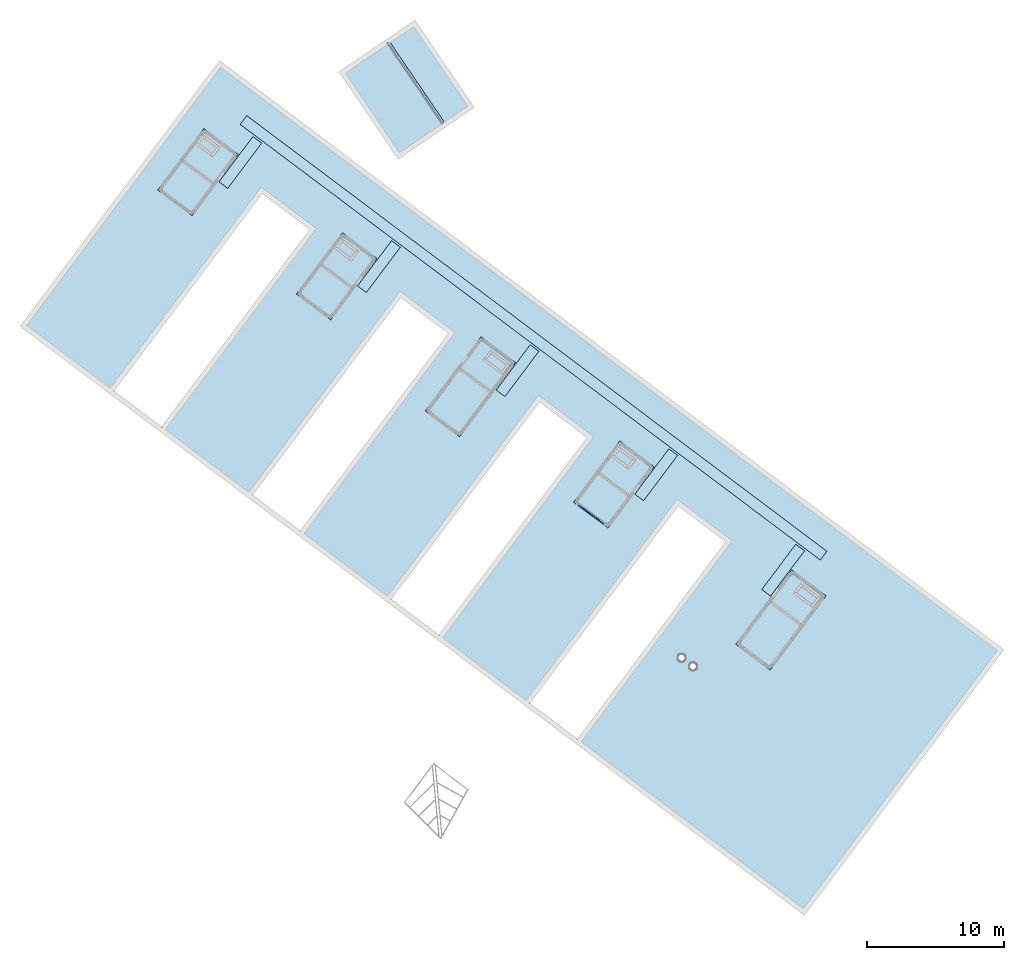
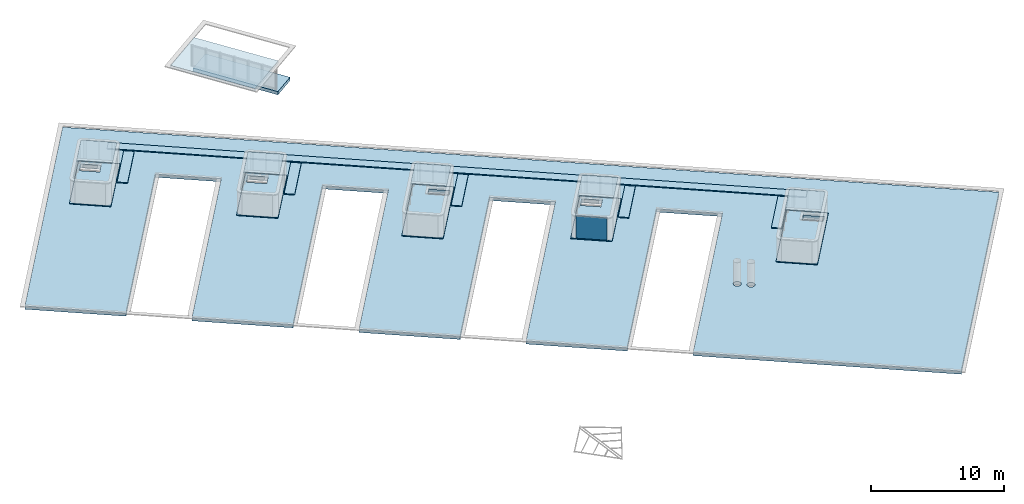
# One storey, part 19 of 28: 19 slabs, 1 wall, 12 openings, 13 elements without a shape of their own.
"""IFC2X3 building model written with IfcOpenShell, lengths in metres."""

from ifc_helpers import new_model, entity, si_unit, converted_unit, derived_unit, direction, frame, frame_2d, origin, origin_2d_with_axis, place, context, subcontext, project, spatial, polyline, rectangle, circle, outline, extrude, material, layer, layer_set, layer_usage, type_object, element, aggregate, save


model = new_model("IFC2X3")

# Units and contexts
model_context = context("Model", 3, precision=1e-05, world=origin(), true_north=direction((6.123031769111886e-17, 1.0)))
body_context = subcontext(model_context, "Body", "Model", "MODEL_VIEW")
ifc_project = project(units=[si_unit("LENGTHUNIT", "METRE"), si_unit("AREAUNIT", "SQUARE_METRE"), si_unit("VOLUMEUNIT", "CUBIC_METRE"), converted_unit("PLANEANGLEUNIT", "DEGREE", entity("IfcRatioMeasure", 0.017453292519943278), si_unit("PLANEANGLEUNIT", "RADIAN"), dimensions=[0, 0, 0, 0, 0, 0, 0]), si_unit("MASSUNIT", "GRAM", prefix="KILO"), derived_unit("MASSDENSITYUNIT", [(si_unit("MASSUNIT", "GRAM", prefix="KILO"), 1), (si_unit("LENGTHUNIT", "METRE"), -3)]), derived_unit("IONCONCENTRATIONUNIT", [(si_unit("MASSUNIT", "GRAM", prefix="KILO"), 1), (si_unit("LENGTHUNIT", "METRE"), -3)]), derived_unit("MOMENTOFINERTIAUNIT", [(si_unit("LENGTHUNIT", "METRE"), 4)]), si_unit("TIMEUNIT", "SECOND"), si_unit("FREQUENCYUNIT", "HERTZ"), si_unit("THERMODYNAMICTEMPERATUREUNIT", "DEGREE_CELSIUS"), derived_unit("THERMALTRANSMITTANCEUNIT", [(si_unit("MASSUNIT", "GRAM", prefix="KILO"), 1), (si_unit("THERMODYNAMICTEMPERATUREUNIT", "KELVIN"), -1), (si_unit("TIMEUNIT", "SECOND"), -3)]), derived_unit("THERMALCONDUCTANCEUNIT", [(si_unit("MASSUNIT", "GRAM", prefix="KILO"), 1), (si_unit("THERMODYNAMICTEMPERATUREUNIT", "KELVIN"), -1), (si_unit("TIMEUNIT", "SECOND"), -3), (si_unit("LENGTHUNIT", "METRE"), 1)]), derived_unit("VOLUMETRICFLOWRATEUNIT", [(si_unit("LENGTHUNIT", "METRE"), 3), (si_unit("TIMEUNIT", "SECOND"), -1)]), derived_unit("MASSFLOWRATEUNIT", [(si_unit("MASSUNIT", "GRAM", prefix="KILO"), 1), (si_unit("TIMEUNIT", "SECOND"), -1)]), derived_unit("ROTATIONALFREQUENCYUNIT", [(si_unit("TIMEUNIT", "SECOND"), -1)]), si_unit("ELECTRICCURRENTUNIT", "AMPERE"), si_unit("ELECTRICVOLTAGEUNIT", "VOLT"), si_unit("POWERUNIT", "WATT"), si_unit("FORCEUNIT", "NEWTON", prefix="KILO"), si_unit("ILLUMINANCEUNIT", "LUX"), si_unit("LUMINOUSFLUXUNIT", "LUMEN"), si_unit("LUMINOUSINTENSITYUNIT", "CANDELA"), derived_unit("USERDEFINED", [(si_unit("MASSUNIT", "GRAM", prefix="KILO"), -1), (si_unit("LENGTHUNIT", "METRE"), -2), (si_unit("TIMEUNIT", "SECOND"), 3), (si_unit("LUMINOUSFLUXUNIT", "LUMEN"), 1)]), derived_unit("USERDEFINED", [(si_unit("MASSUNIT", "GRAM", prefix="KILO"), 1), (si_unit("TIMEUNIT", "SECOND"), -3), (si_unit("LENGTHUNIT", "METRE"), 3), (si_unit("ELECTRICCURRENTUNIT", "AMPERE"), -2)]), derived_unit("SOUNDPOWERUNIT", [(si_unit("MASSUNIT", "GRAM", prefix="KILO"), 1), (si_unit("TIMEUNIT", "SECOND"), -3), (si_unit("LENGTHUNIT", "METRE"), 2)]), derived_unit("SOUNDPRESSUREUNIT", [(si_unit("MASSUNIT", "GRAM", prefix="KILO"), 1), (si_unit("LENGTHUNIT", "METRE"), -1), (si_unit("TIMEUNIT", "SECOND"), -2)]), derived_unit("LINEARVELOCITYUNIT", [(si_unit("LENGTHUNIT", "METRE"), 1), (si_unit("TIMEUNIT", "SECOND"), -1)]), si_unit("PRESSUREUNIT", "PASCAL"), derived_unit("USERDEFINED", [(si_unit("MASSUNIT", "GRAM", prefix="KILO"), 1), (si_unit("LENGTHUNIT", "METRE"), -2), (si_unit("TIMEUNIT", "SECOND"), -2)]), derived_unit("LINEARFORCEUNIT", [(si_unit("MASSUNIT", "GRAM", prefix="KILO"), 1), (si_unit("TIMEUNIT", "SECOND"), -2)]), derived_unit("PLANARFORCEUNIT", [(si_unit("MASSUNIT", "GRAM", prefix="KILO"), 1), (si_unit("LENGTHUNIT", "METRE"), -1), (si_unit("TIMEUNIT", "SECOND"), -2)]), derived_unit("SPECIFICHEATCAPACITYUNIT", [(si_unit("THERMODYNAMICTEMPERATUREUNIT", "KELVIN"), -1), (si_unit("LENGTHUNIT", "METRE"), 2), (si_unit("TIMEUNIT", "SECOND"), -2)]), derived_unit("HEATINGVALUEUNIT", [(si_unit("LENGTHUNIT", "METRE"), 2), (si_unit("TIMEUNIT", "SECOND"), -2)]), derived_unit("VAPORPERMEABILITYUNIT", [(si_unit("LENGTHUNIT", "METRE"), -1), (si_unit("TIMEUNIT", "SECOND"), 1)]), derived_unit("DYNAMICVISCOSITYUNIT", [(si_unit("MASSUNIT", "GRAM", prefix="KILO"), 1), (si_unit("TIMEUNIT", "SECOND"), -1), (si_unit("LENGTHUNIT", "METRE"), -1)]), derived_unit("THERMALEXPANSIONCOEFFICIENTUNIT", [(si_unit("THERMODYNAMICTEMPERATUREUNIT", "KELVIN"), -1)]), derived_unit("MODULUSOFELASTICITYUNIT", [(si_unit("MASSUNIT", "GRAM", prefix="KILO"), 1), (si_unit("LENGTHUNIT", "METRE"), -1), (si_unit("TIMEUNIT", "SECOND"), -2)]), derived_unit("ISOTHERMALMOISTURECAPACITYUNIT", [(si_unit("LENGTHUNIT", "METRE"), 3), (si_unit("MASSUNIT", "GRAM", prefix="KILO"), -1)]), derived_unit("MOISTUREDIFFUSIVITYUNIT", [(si_unit("TIMEUNIT", "SECOND"), -1), (si_unit("LENGTHUNIT", "METRE"), 2)])], contexts=[model_context])

# Site, building, storey
site_placement = place(None, frame((0.0, 0.0, 235.0), z_axis=(0.0, 0.0, 1.0), x_axis=(-0.7996477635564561, 0.6004693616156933, 0.0)))
site = spatial("IfcSite", under=ifc_project, at=site_placement, Name="Default", CompositionType="ELEMENT")
building_placement = place(site_placement, origin())
building = spatial("IfcBuilding", under=site, at=building_placement, CompositionType="ELEMENT")
storey_placement = place(building_placement, frame((0.0, 0.0, 3.400000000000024)))
storey = spatial("IfcBuildingStorey", under=building, at=storey_placement, Name="PC- Coberta STR", CompositionType="ELEMENT", Elevation=3.400000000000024)

# Roof, slab, openings
ifc_material_1 = material(Name="_COB- Grava")
ifc_layer_1 = layer(ifc_material_1, 0.08)
ifc_material_2 = material(Name="_COB - Geotextil")
ifc_layer_2 = layer(ifc_material_2, 0.01)
ifc_material_3 = material(Name="_Aillament")
ifc_layer_3 = layer(ifc_material_3, 0.08)
ifc_material_4 = material(Name="_COB- Doble làmina asfàltica")
ifc_layer_4 = layer(ifc_material_4, 0.01)
ifc_material_5 = material(Name="_COB- Formigó Cel·lular")
ifc_layer_5 = layer(ifc_material_5, 0.12)
ifc_layer_set_1 = layer_set([ifc_layer_1, ifc_layer_2, ifc_layer_3, ifc_layer_4, ifc_layer_5], Name="Cubierta básica:COB- Coberta invertida-  Graves- No transitable")
roof_1_placement = place(storey_placement, frame((3.245147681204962, -42.04019175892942, 0.0)))
roof_1 = element("IfcRoof", 1, at=roof_1_placement, inside=storey, material=ifc_layer_set_1, Name="Cubierta básica:COB- Coberta invertida-  Graves- No transitable", ObjectType="Cubierta básica:COB- Coberta invertida-  Graves- No transitable", ShapeType="NOTDEFINED")
slab_type_1 = type_object("IfcSlabType", Name="Cubierta básica:COB- Coberta invertida-  Graves- No transitable", PredefinedType="ROOF")
slab_1_placement = place(storey_placement, frame((3.245147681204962, -42.04019175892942, 0.0)))
slab_1 = element("IfcSlab", 2, at=slab_1_placement, type_object=slab_type_1, Name="Cubierta básica:COB- Coberta invertida-  Graves- No transitable:1", ObjectType="Cubierta básica:COB- Coberta invertida-  Graves- No transitable", PredefinedType="ROOF", context=body_context, shape_type="SweptSolid", body=[
    extrude(outline(polyline([(20.28000000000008, -9.739999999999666), (40.680000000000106, -9.739999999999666), (40.67999999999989, 13.959999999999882), (-30.520000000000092, 13.959999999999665), (-30.519999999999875, -9.739999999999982), (-22.81999999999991, -9.739999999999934), (-22.82000000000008, 8.684999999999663), (-17.820000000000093, 8.684999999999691), (-17.819999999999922, -9.739999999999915), (-10.119999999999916, -9.73999999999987), (-10.120000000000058, 8.68499999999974), (-5.1200000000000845, 8.684999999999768), (-5.119999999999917, -9.739999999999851), (2.5800000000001, -9.739999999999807), (2.579999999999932, 8.684999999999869), (7.579999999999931, 8.684999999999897), (7.580000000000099, -9.739999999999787), (15.280000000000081, -9.739999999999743), (15.279999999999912, 8.684999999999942), (20.279999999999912, 8.68499999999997), (20.28000000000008, -9.739999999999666)])), frame((40.68000000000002, 13.959999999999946, 0.0), z_axis=(0.0, 0.0, 1.0), x_axis=(-1.0, 0.0, 0.0)), (0.0, 0.0, 1.0), 0.30000000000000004),
])
opening_1_placement = place(storey_placement, frame((3.245147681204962, -42.04019175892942, 0.0)))
element("IfcOpeningElement", 3, at=opening_1_placement, cuts=slab_1, Name="Cubierta básica:COB- Coberta invertida-  Graves- No transitable:1", ObjectType="Opening", context=body_context, shape_type="SweptSolid", body=[
    extrude(circle(Radius=0.303, at=origin_2d_with_axis()), frame((17.128000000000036, 14.341999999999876, 0.0)), (0.0, 0.0, 1.0), 0.30000000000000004),
])
opening_2_placement = place(storey_placement, frame((3.245147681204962, -42.04019175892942, 0.0)))
element("IfcOpeningElement", 4, at=opening_2_placement, cuts=slab_1, Name="Cubierta básica:COB- Coberta invertida-  Graves- No transitable:2", ObjectType="Opening", context=body_context, shape_type="SweptSolid", body=[
    extrude(circle(Radius=0.303, at=origin_2d_with_axis()), frame((18.177143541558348, 14.341999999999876, 0.0)), (0.0, 0.0, 1.0), 0.30000000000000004),
])
opening_3_placement = place(storey_placement, frame((3.245147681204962, -42.04019175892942, 0.0)))
element("IfcOpeningElement", 5, at=opening_3_placement, cuts=slab_1, Name="Cubierta básica:COB- Coberta invertida-  Graves- No transitable:3", ObjectType="Opening", context=body_context, shape_type="SweptSolid", body=[
    extrude(rectangle(XDim=5.626999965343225, YDim=3.150000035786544, at=frame_2d((6.661338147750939e-15, -1.2989609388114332e-14), x_axis=(1.0, 0.0))), frame((29.790037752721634, 7.161500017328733, 0.0), z_axis=(0.0, 0.0, 1.0), x_axis=(0.0, 1.0, 0.0)), (0.0, 0.0, 1.0), 0.30000000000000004),
])
opening_4_placement = place(storey_placement, frame((3.245147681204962, -42.04019175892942, 0.0)))
element("IfcOpeningElement", 6, at=opening_4_placement, cuts=slab_1, Name="Cubierta básica:COB- Coberta invertida-  Graves- No transitable:4", ObjectType="Opening", context=body_context, shape_type="SweptSolid", body=[
    extrude(rectangle(XDim=6.812931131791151, YDim=3.1500000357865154, at=frame_2d((0.0, -1.1879386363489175e-14), x_axis=(1.0, 0.0))), frame((14.039898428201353, 7.75446560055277, 0.0), z_axis=(0.0, 0.0, 1.0), x_axis=(0.0, 1.0, 0.0)), (0.0, 0.0, 1.0), 0.30000000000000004),
])
opening_5_placement = place(storey_placement, frame((3.245147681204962, -42.04019175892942, 0.0)))
element("IfcOpeningElement", 7, at=opening_5_placement, cuts=slab_1, Name="Cubierta básica:COB- Coberta invertida-  Graves- No transitable:5", ObjectType="Opening", context=body_context, shape_type="SweptSolid", body=[
    extrude(rectangle(XDim=3.1500000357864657, YDim=6.812931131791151, at=frame_2d((8.659739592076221e-15, 0.0), x_axis=(1.0, 0.0))), frame((42.48989842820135, 7.75446560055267, 0.0), z_axis=(0.0, 0.0, 1.0), x_axis=(-1.0, 0.0, 0.0)), (0.0, 0.0, 1.0), 0.30000000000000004),
])
opening_6_placement = place(storey_placement, frame((3.245147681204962, -42.04019175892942, 0.0)))
element("IfcOpeningElement", 8, at=opening_6_placement, cuts=slab_1, Name="Cubierta básica:COB- Coberta invertida-  Graves- No transitable:6", ObjectType="Opening", context=body_context, shape_type="SweptSolid", body=[
    extrude(rectangle(XDim=5.626999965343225, YDim=3.150000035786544, at=frame_2d((6.661338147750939e-15, -1.2989609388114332e-14), x_axis=(1.0, 0.0))), frame((55.19003775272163, 7.161500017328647, 0.0), z_axis=(0.0, 0.0, 1.0), x_axis=(0.0, 1.0, 0.0)), (0.0, 0.0, 1.0), 0.30000000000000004),
])
opening_7_placement = place(storey_placement, frame((3.245147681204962, -42.04019175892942, 0.0)))
element("IfcOpeningElement", 9, at=opening_7_placement, cuts=slab_1, Name="Cubierta básica:COB- Coberta invertida-  Graves- No transitable:7", ObjectType="Opening", context=body_context, shape_type="SweptSolid", body=[
    extrude(rectangle(XDim=5.626999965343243, YDim=3.1500000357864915, at=frame_2d((-6.661338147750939e-15, 1.7430501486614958e-14), x_axis=(1.0, 0.0))), frame((67.89003775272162, 7.161500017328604, 0.0), z_axis=(0.0, 0.0, 1.0), x_axis=(0.0, -1.0, 0.0)), (0.0, 0.0, 1.0), 0.30000000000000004),
])
aggregate(roof_1, [slab_1])

# Roof, slab
roof_2_placement = place(storey_placement, frame((58.190915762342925, -52.92210949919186, 0.0)))
roof_2 = element("IfcRoof", 10, at=roof_2_placement, inside=storey, material=ifc_layer_set_1, Name="Cubierta básica:COB- Coberta invertida-  Graves- No transitable", ObjectType="Cubierta básica:COB- Coberta invertida-  Graves- No transitable", ShapeType="NOTDEFINED")
slab_2_placement = place(roof_2_placement, origin())
slab_2 = element("IfcSlab", 11, at=slab_2_placement, type_object=slab_type_1, material=ifc_layer_set_1, Name="Cubierta básica:COB- Coberta invertida-  Graves- No transitable", ObjectType="Cubierta básica:COB- Coberta invertida-  Graves- No transitable", PredefinedType="ROOF", context=body_context, shape_type="SweptSolid", body=[
    extrude(rectangle(XDim=7.100000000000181, YDim=2.100000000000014, at=frame_2d((-8.659739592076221e-15, 0.0), x_axis=(0.9460037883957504, -0.3241555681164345))), frame((3.698676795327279, 2.1440562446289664, 0.0)), (0.0, 0.0, 1.0), 0.30000000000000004),
])
aggregate(roof_2, [slab_2])

ifc_material_6 = material(Name="_REV- Xapa minionda")
ifc_layer_6 = layer(ifc_material_6, 0.01)
ifc_material_7 = material(Name="_Genèric perfils, muntants, rastrells")
ifc_layer_7 = layer(ifc_material_7, 0.01)
ifc_layer_8 = layer(ifc_material_3, 0.08)
ifc_layer_set_2 = layer_set([ifc_layer_6, ifc_layer_7, ifc_layer_8], Name="Cubierta básica:COB- Coberta Xapa")
roof_3_placement = place(storey_placement, frame((15.910046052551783, -37.50926055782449, 2.3549211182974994)))
roof_3 = element("IfcRoof", 12, at=roof_3_placement, inside=storey, material=ifc_layer_set_2, Name="Cubierta básica:COB- Coberta Xapa", ObjectType="Cubierta básica:COB- Coberta Xapa", ShapeType="NOTDEFINED")
slab_type_2 = type_object("IfcSlabType", Name="Cubierta básica:COB- Coberta Xapa", PredefinedType="ROOF")
slab_3_placement = place(roof_3_placement, origin())
slab_3 = element("IfcSlab", 13, at=slab_3_placement, type_object=slab_type_2, material=ifc_layer_set_2, Name="Cubierta básica:COB- Coberta Xapa", ObjectType="Cubierta básica:COB- Coberta Xapa", PredefinedType="ROOF", context=body_context, shape_type="SweptSolid", body=[
    extrude(rectangle(XDim=2.71199997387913, YDim=2.750000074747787, at=frame_2d((0.0, 2.220446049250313e-15), x_axis=(0.0, -1.0))), frame((1.3750000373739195, 1.3559999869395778, 0.0)), (0.0, 0.0, 1.0), 0.1),
])
aggregate(roof_3, [slab_3])

roof_4_placement = place(storey_placement, frame((31.66018537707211, -37.495191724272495, 2.35)))
roof_4 = element("IfcRoof", 14, at=roof_4_placement, inside=storey, material=ifc_layer_set_2, Name="Cubierta básica:COB- Coberta Xapa", ObjectType="Cubierta básica:COB- Coberta Xapa", ShapeType="NOTDEFINED")
slab_4_placement = place(roof_4_placement, origin())
slab_4 = element("IfcSlab", 15, at=slab_4_placement, type_object=slab_type_2, material=ifc_layer_set_2, Name="Cubierta básica:COB- Coberta Xapa", ObjectType="Cubierta básica:COB- Coberta Xapa", PredefinedType="ROOF", context=body_context, shape_type="SweptSolid", body=[
    extrude(rectangle(XDim=2.711999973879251, YDim=2.7500000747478, at=frame_2d((2.220446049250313e-15, 2.1094237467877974e-15), x_axis=(0.0, 1.0))), frame((1.375000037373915, 1.3559999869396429, 0.0)), (0.0, 0.0, 1.0), 0.1),
])
aggregate(roof_4, [slab_4])

roof_5_placement = place(storey_placement, frame((57.06018537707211, -37.49519172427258, 2.35)))
roof_5 = element("IfcRoof", 16, at=roof_5_placement, inside=storey, material=ifc_layer_set_2, Name="Cubierta básica:COB- Coberta Xapa", ObjectType="Cubierta básica:COB- Coberta Xapa", ShapeType="NOTDEFINED")
slab_5_placement = place(roof_5_placement, origin())
slab_5 = element("IfcSlab", 17, at=slab_5_placement, type_object=slab_type_2, material=ifc_layer_set_2, Name="Cubierta básica:COB- Coberta Xapa", ObjectType="Cubierta básica:COB- Coberta Xapa", PredefinedType="ROOF", context=body_context, shape_type="SweptSolid", body=[
    extrude(rectangle(XDim=2.711999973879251, YDim=2.7500000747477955, at=frame_2d((0.0, 2.1094237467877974e-15), x_axis=(0.0, 1.0))), frame((1.3750000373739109, 1.3559999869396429, 0.0)), (0.0, 0.0, 1.0), 0.1),
])
aggregate(roof_5, [slab_5])

roof_6_placement = place(storey_placement, frame((69.7601853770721, -37.49519172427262, 2.35)))
roof_6 = element("IfcRoof", 18, at=roof_6_placement, inside=storey, material=ifc_layer_set_2, Name="Cubierta básica:COB- Coberta Xapa", ObjectType="Cubierta básica:COB- Coberta Xapa", ShapeType="NOTDEFINED")
slab_6_placement = place(roof_6_placement, origin())
slab_6 = element("IfcSlab", 19, at=slab_6_placement, type_object=slab_type_2, material=ifc_layer_set_2, Name="Cubierta básica:COB- Coberta Xapa", ObjectType="Cubierta básica:COB- Coberta Xapa", PredefinedType="ROOF", context=body_context, shape_type="SweptSolid", body=[
    extrude(rectangle(XDim=2.711999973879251, YDim=2.7500000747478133, at=frame_2d((0.0, 2.1094237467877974e-15), x_axis=(0.0, 1.0))), frame((1.3750000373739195, 1.3559999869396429, 0.0)), (0.0, 0.0, 1.0), 0.1),
])
aggregate(roof_6, [slab_6])

# Slabs
ifc_material_8 = material(Name="_Formigó- T1- STR")
ifc_layer_9 = layer(ifc_material_8, 0.05)
ifc_layer_10 = layer(ifc_material_3, 0.03)
ifc_layer_set_3 = layer_set([ifc_layer_9, ifc_layer_10], Name="Suelo:PAV- llosa formigó exterior")
ifc_layer_usage_1 = layer_usage(ifc_layer_set_3, "AXIS3", "POSITIVE", 0.0)
slab_type_3 = type_object("IfcSlabType", Name="Suelo:PAV- llosa formigó exterior", PredefinedType="FLOOR", material=ifc_layer_set_3)
slab_7_placement = place(storey_placement, frame((17.619046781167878, -40.33428522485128, 0.31999999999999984)))
element("IfcSlab", 20, at=slab_7_placement, inside=storey, type_object=slab_type_3, material=ifc_layer_usage_1, Name="Suelo:PAV- llosa formigó exterior", ObjectType="Suelo:PAV- llosa formigó exterior", PredefinedType="FLOOR", context=body_context, shape_type="SweptSolid", body=[
    extrude(outline(polyline([(-26.571487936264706, -1.7500389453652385), (-26.571487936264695, -2.550038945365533), (26.571487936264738, -2.550038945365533), (26.571487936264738, -1.7499958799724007), (-26.571487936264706, -1.7500389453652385)])), frame((26.571487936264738, 2.550038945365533, 0.07999999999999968), z_axis=(0.0, 0.0, -1.0), x_axis=(-1.0, 0.0, 0.0)), (0.0, 0.0, 1.0), 0.08000000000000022),
])
slab_8_placement = place(storey_placement, frame((17.619046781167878, -40.33428522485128, 0.31999999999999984)))
element("IfcSlab", 21, at=slab_8_placement, inside=storey, type_object=slab_type_3, material=ifc_layer_usage_1, Name="Suelo:PAV- llosa formigó exterior:2", ObjectType="Suelo:PAV- llosa formigó exterior", PredefinedType="FLOOR", context=body_context, shape_type="SweptSolid", body=[
    extrude(rectangle(XDim=4.145984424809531, YDim=0.799996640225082, at=frame_2d((-24.887531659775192, 0.47704673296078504), x_axis=(0.0, 1.0))), frame((26.571487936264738, 2.550038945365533, 0.07999999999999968), z_axis=(0.0, 0.0, -1.0), x_axis=(-1.0, 0.0, 0.0)), (0.0, 0.0, 1.0), 0.08000000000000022),
])
slab_9_placement = place(storey_placement, frame((17.619046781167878, -40.33428522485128, 0.31999999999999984)))
element("IfcSlab", 22, at=slab_9_placement, inside=storey, type_object=slab_type_3, material=ifc_layer_usage_1, Name="Suelo:PAV- llosa formigó exterior:3", ObjectType="Suelo:PAV- llosa formigó exterior", PredefinedType="FLOOR", context=body_context, shape_type="SweptSolid", body=[
    extrude(rectangle(XDim=4.145984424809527, YDim=0.7999966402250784, at=frame_2d((-12.187531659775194, 0.4770467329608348), x_axis=(0.0, 1.0))), frame((26.571487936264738, 2.550038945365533, 0.07999999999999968), z_axis=(0.0, 0.0, -1.0), x_axis=(-1.0, 0.0, 0.0)), (0.0, 0.0, 1.0), 0.08000000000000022),
])
slab_10_placement = place(storey_placement, frame((17.619046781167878, -40.33428522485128, 0.31999999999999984)))
element("IfcSlab", 23, at=slab_10_placement, inside=storey, type_object=slab_type_3, material=ifc_layer_usage_1, Name="Suelo:PAV- llosa formigó exterior:4", ObjectType="Suelo:PAV- llosa formigó exterior", PredefinedType="FLOOR", context=body_context, shape_type="SweptSolid", body=[
    extrude(rectangle(XDim=4.145984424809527, YDim=0.7999966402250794, at=frame_2d((0.5124683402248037, 0.4770467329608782), x_axis=(0.0, 1.0))), frame((26.571487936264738, 2.550038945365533, 0.07999999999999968), z_axis=(0.0, 0.0, -1.0), x_axis=(-1.0, 0.0, 0.0)), (0.0, 0.0, 1.0), 0.08000000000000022),
])
slab_11_placement = place(storey_placement, frame((17.619046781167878, -40.33428522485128, 0.31999999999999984)))
element("IfcSlab", 24, at=slab_11_placement, inside=storey, type_object=slab_type_3, material=ifc_layer_usage_1, Name="Suelo:PAV- llosa formigó exterior:5", ObjectType="Suelo:PAV- llosa formigó exterior", PredefinedType="FLOOR", context=body_context, shape_type="SweptSolid", body=[
    extrude(rectangle(XDim=4.145984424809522, YDim=0.7999966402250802, at=frame_2d((13.212468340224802, 0.47704673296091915), x_axis=(0.0, 1.0))), frame((26.571487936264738, 2.550038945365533, 0.07999999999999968), z_axis=(0.0, 0.0, -1.0), x_axis=(-1.0, 0.0, 0.0)), (0.0, 0.0, 1.0), 0.08000000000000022),
])
slab_12_placement = place(storey_placement, frame((17.619046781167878, -40.33428522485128, 0.31999999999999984)))
element("IfcSlab", 25, at=slab_12_placement, inside=storey, type_object=slab_type_3, material=ifc_layer_usage_1, Name="Suelo:PAV- llosa formigó exterior:6", ObjectType="Suelo:PAV- llosa formigó exterior", PredefinedType="FLOOR", context=body_context, shape_type="SweptSolid", body=[
    extrude(rectangle(XDim=4.145984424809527, YDim=0.7999966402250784, at=frame_2d((24.84836955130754, 0.477046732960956), x_axis=(0.0, 1.0))), frame((26.571487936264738, 2.550038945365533, 0.07999999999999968), z_axis=(0.0, 0.0, -1.0), x_axis=(-1.0, 0.0, 0.0)), (0.0, 0.0, 1.0), 0.08000000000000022),
])

# Roof, slab, opening
ifc_material_9 = material(Name="_COB- Formigó antilliscant- T1 ext")
ifc_layer_11 = layer(ifc_material_9, 0.14999999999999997)
ifc_layer_12 = layer(ifc_material_2, 0.01)
ifc_layer_13 = layer(ifc_material_3, 0.08)
ifc_layer_14 = layer(ifc_material_4, 0.01)
ifc_layer_15 = layer(ifc_material_5, 0.12)
ifc_layer_set_4 = layer_set([ifc_layer_11, ifc_layer_12, ifc_layer_13, ifc_layer_14, ifc_layer_15], Name="Cubierta básica:COB- Coberta invertida-  Formigó- Installacions")
roof_7_placement = place(storey_placement, frame((31.460185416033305, -37.6921917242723, 0.0)))
roof_7 = element("IfcRoof", 26, at=roof_7_placement, inside=storey, material=ifc_layer_set_4, Name="Cubierta básica:COB- Coberta invertida-  Formigó- Installacions", ObjectType="Cubierta básica:COB- Coberta invertida-  Formigó- Installacions", ShapeType="NOTDEFINED")
slab_type_4 = type_object("IfcSlabType", Name="Cubierta básica:COB- Coberta invertida-  Formigó- Installacions", PredefinedType="ROOF")
slab_13_placement = place(storey_placement, frame((31.460185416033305, -37.6921917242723, 0.0)))
slab_13 = element("IfcSlab", 27, at=slab_13_placement, type_object=slab_type_4, Name="Cubierta básica:COB- Coberta invertida-  Formigó- Installacions:1", ObjectType="Cubierta básica:COB- Coberta invertida-  Formigó- Installacions", PredefinedType="ROOF", context=body_context, shape_type="SweptSolid", body=[
    extrude(rectangle(XDim=5.626999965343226, YDim=3.1500000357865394, at=frame_2d((6.439293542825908e-15, -1.0769163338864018e-14), x_axis=(1.0, 0.0))), frame((1.5750000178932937, 2.8134999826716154, 0.0), z_axis=(0.0, 0.0, 1.0), x_axis=(0.0, 1.0, 0.0)), (0.0, 0.0, 1.0), 0.36999999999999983),
])
opening_8_placement = place(storey_placement, frame((31.460185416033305, -37.6921917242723, 0.0)))
element("IfcOpeningElement", 28, at=opening_8_placement, cuts=slab_13, Name="Cubierta básica:COB- Coberta invertida-  Formigó- Installacions:1", ObjectType="Opening", context=body_context, shape_type="SweptSolid", body=[
    extrude(rectangle(XDim=1.560000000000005, YDim=0.8800000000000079, at=frame_2d((-2.1649348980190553e-15, -6.494804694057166e-15), x_axis=(1.0, 0.0))), frame((2.1599622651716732, 0.8320017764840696, 0.0), z_axis=(0.0, 0.0, 1.0), x_axis=(-1.0, 0.0, 0.0)), (0.0, 0.0, 1.0), 0.36999999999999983),
])
aggregate(roof_7, [slab_13])

roof_8_placement = place(storey_placement, frame((56.86018541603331, -37.692191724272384, 0.0)))
roof_8 = element("IfcRoof", 29, at=roof_8_placement, inside=storey, material=ifc_layer_set_4, Name="Cubierta básica:COB- Coberta invertida-  Formigó- Installacions", ObjectType="Cubierta básica:COB- Coberta invertida-  Formigó- Installacions", ShapeType="NOTDEFINED")
slab_14_placement = place(storey_placement, frame((56.86018541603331, -37.692191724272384, 0.0)))
slab_14 = element("IfcSlab", 30, at=slab_14_placement, type_object=slab_type_4, Name="Cubierta básica:COB- Coberta invertida-  Formigó- Installacions:1", ObjectType="Cubierta básica:COB- Coberta invertida-  Formigó- Installacions", PredefinedType="ROOF", context=body_context, shape_type="SweptSolid", body=[
    extrude(rectangle(XDim=5.626999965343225, YDim=3.150000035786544, at=frame_2d((6.661338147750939e-15, -1.3100631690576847e-14), x_axis=(1.0, 0.0))), frame((1.575000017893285, 2.8134999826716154, 0.0), z_axis=(0.0, 0.0, 1.0), x_axis=(0.0, 1.0, 0.0)), (0.0, 0.0, 1.0), 0.36999999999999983),
])
opening_9_placement = place(storey_placement, frame((56.86018541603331, -37.692191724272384, 0.0)))
element("IfcOpeningElement", 31, at=opening_9_placement, cuts=slab_14, Name="Cubierta básica:COB- Coberta invertida-  Formigó- Installacions:1", ObjectType="Opening", context=body_context, shape_type="SweptSolid", body=[
    extrude(rectangle(XDim=1.5600000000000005, YDim=0.8800000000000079, at=frame_2d((-4.3298697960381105e-15, -6.494804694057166e-15), x_axis=(1.0, 0.0))), frame((2.159962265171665, 0.8320017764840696, 0.0), z_axis=(0.0, 0.0, 1.0), x_axis=(-1.0, 0.0, 0.0)), (0.0, 0.0, 1.0), 0.36999999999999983),
])
aggregate(roof_8, [slab_14])

roof_9_placement = place(storey_placement, frame((69.56018541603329, -37.692191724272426, 0.0)))
roof_9 = element("IfcRoof", 32, at=roof_9_placement, inside=storey, material=ifc_layer_set_4, Name="Cubierta básica:COB- Coberta invertida-  Formigó- Installacions", ObjectType="Cubierta básica:COB- Coberta invertida-  Formigó- Installacions", ShapeType="NOTDEFINED")
slab_15_placement = place(storey_placement, frame((69.56018541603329, -37.692191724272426, 0.0)))
slab_15 = element("IfcSlab", 33, at=slab_15_placement, type_object=slab_type_4, Name="Cubierta básica:COB- Coberta invertida-  Formigó- Installacions:1", ObjectType="Cubierta básica:COB- Coberta invertida-  Formigó- Installacions", PredefinedType="ROOF", context=body_context, shape_type="SweptSolid", body=[
    extrude(rectangle(XDim=5.626999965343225, YDim=3.150000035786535, at=frame_2d((6.661338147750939e-15, 0.0), x_axis=(1.0, 0.0))), frame((1.5750000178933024, 2.8134999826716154, 0.0), z_axis=(0.0, 0.0, 1.0), x_axis=(0.0, 1.0, 0.0)), (0.0, 0.0, 1.0), 0.36999999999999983),
])
opening_10_placement = place(storey_placement, frame((69.56018541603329, -37.692191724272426, 0.0)))
element("IfcOpeningElement", 34, at=opening_10_placement, cuts=slab_15, Name="Cubierta básica:COB- Coberta invertida-  Formigó- Installacions:1", ObjectType="Opening", context=body_context, shape_type="SweptSolid", body=[
    extrude(rectangle(XDim=1.5600000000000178, YDim=0.8800000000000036, at=frame_2d((-8.659739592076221e-15, 0.0), x_axis=(1.0, 0.0))), frame((2.1599622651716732, 0.8320017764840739, 0.0), z_axis=(0.0, 0.0, 1.0), x_axis=(-1.0, 0.0, 0.0)), (0.0, 0.0, 1.0), 0.36999999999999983),
])
aggregate(roof_9, [slab_15])

roof_10_placement = place(storey_placement, frame((15.710046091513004, -37.69219172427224, 0.0)))
roof_10 = element("IfcRoof", 35, at=roof_10_placement, inside=storey, material=ifc_layer_set_4, Name="Cubierta básica:COB- Coberta invertida-  Formigó- Installacions", ObjectType="Cubierta básica:COB- Coberta invertida-  Formigó- Installacions", ShapeType="NOTDEFINED")
slab_16_placement = place(storey_placement, frame((15.710046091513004, -37.69219172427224, 0.0)))
slab_16 = element("IfcSlab", 36, at=slab_16_placement, type_object=slab_type_4, Name="Cubierta básica:COB- Coberta invertida-  Formigó- Installacions:1", ObjectType="Cubierta básica:COB- Coberta invertida-  Formigó- Installacions", PredefinedType="ROOF", context=body_context, shape_type="SweptSolid", body=[
    extrude(rectangle(XDim=3.1500000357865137, YDim=6.81293113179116, at=frame_2d((-1.1879386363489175e-14, 0.0), x_axis=(1.0, 0.0))), frame((1.575000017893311, 3.4064655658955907, 0.0)), (0.0, 0.0, 1.0), 0.36999999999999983),
])
opening_11_placement = place(storey_placement, frame((15.710046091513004, -37.69219172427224, 0.0)))
element("IfcOpeningElement", 37, at=opening_11_placement, cuts=slab_16, Name="Cubierta básica:COB- Coberta invertida-  Formigó- Installacions:1", ObjectType="Opening", context=body_context, shape_type="SweptSolid", body=[
    extrude(rectangle(XDim=1.6260000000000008, YDim=0.6000000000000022, at=frame_2d((-1.0547118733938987e-15, 0.0), x_axis=(1.0, 0.0))), frame((1.0481015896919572, 0.8320017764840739, 0.0), z_axis=(0.0, 0.0, 1.0), x_axis=(-1.0, 0.0, 0.0)), (0.0, 0.0, 1.0), 0.36999999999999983),
])
aggregate(roof_10, [slab_16])

roof_11_placement = place(storey_placement, frame((44.160046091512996, -37.692191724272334, 0.0)))
roof_11 = element("IfcRoof", 38, at=roof_11_placement, inside=storey, material=ifc_layer_set_4, Name="Cubierta básica:COB- Coberta invertida-  Formigó- Installacions", ObjectType="Cubierta básica:COB- Coberta invertida-  Formigó- Installacions", ShapeType="NOTDEFINED")
slab_17_placement = place(storey_placement, frame((44.160046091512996, -37.692191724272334, 0.0)))
slab_17 = element("IfcSlab", 39, at=slab_17_placement, type_object=slab_type_4, Name="Cubierta básica:COB- Coberta invertida-  Formigó- Installacions:1", ObjectType="Cubierta básica:COB- Coberta invertida-  Formigó- Installacions", PredefinedType="ROOF", context=body_context, shape_type="SweptSolid", body=[
    extrude(rectangle(XDim=3.150000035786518, YDim=6.81293113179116, at=frame_2d((-1.2989609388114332e-14, 0.0), x_axis=(1.0, 0.0))), frame((1.575000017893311, 3.4064655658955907, 0.0)), (0.0, 0.0, 1.0), 0.36999999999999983),
])
opening_12_placement = place(storey_placement, frame((44.160046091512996, -37.692191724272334, 0.0)))
element("IfcOpeningElement", 40, at=opening_12_placement, cuts=slab_17, Name="Cubierta básica:COB- Coberta invertida-  Formigó- Installacions:1", ObjectType="Opening", context=body_context, shape_type="SweptSolid", body=[
    extrude(rectangle(XDim=1.6260000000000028, YDim=0.6000000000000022, at=frame_2d((4.3298697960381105e-15, 0.0), x_axis=(1.0, 0.0))), frame((1.0481015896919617, 0.8320017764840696, 0.0), z_axis=(0.0, 0.0, 1.0), x_axis=(-1.0, 0.0, 0.0)), (0.0, 0.0, 1.0), 0.36999999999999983),
])
aggregate(roof_11, [slab_17])

# Roof, slab
ifc_layer_16 = layer(ifc_material_6, 0.01)
ifc_layer_17 = layer(ifc_material_7, 0.01)
ifc_layer_18 = layer(ifc_material_3, 0.08)
ifc_layer_set_5 = layer_set([ifc_layer_16, ifc_layer_17, ifc_layer_18], Name="Cubierta básica:COB- Coberta Xapa 2")
roof_12_placement = place(storey_placement, frame((44.36004605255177, -37.50926055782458, 2.3549211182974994)))
roof_12 = element("IfcRoof", 41, at=roof_12_placement, inside=storey, material=ifc_layer_set_5, Name="Cubierta básica:COB- Coberta Xapa 2", ObjectType="Cubierta básica:COB- Coberta Xapa 2", ShapeType="NOTDEFINED")
slab_type_5 = type_object("IfcSlabType", Name="Cubierta básica:COB- Coberta Xapa 2", PredefinedType="ROOF")
slab_18_placement = place(roof_12_placement, origin())
slab_18 = element("IfcSlab", 42, at=slab_18_placement, type_object=slab_type_5, material=ifc_layer_set_5, Name="Cubierta básica:COB- Coberta Xapa 2", ObjectType="Cubierta básica:COB- Coberta Xapa 2", PredefinedType="ROOF", context=body_context, shape_type="SweptSolid", body=[
    extrude(rectangle(XDim=2.71199997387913, YDim=2.750000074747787, at=frame_2d((0.0, 2.220446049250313e-15), x_axis=(0.0, -1.0))), frame((1.3750000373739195, 1.3559999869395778, 0.0)), (0.0, 0.0, 1.0), 0.1),
])
aggregate(roof_12, [slab_18])

ifc_layer_19 = layer(ifc_material_9, 0.2)
ifc_layer_20 = layer(ifc_material_2, 0.01)
ifc_layer_21 = layer(ifc_material_4, 0.01)
ifc_layer_set_6 = layer_set([ifc_layer_19, ifc_layer_20, ifc_layer_21], Name="Cubierta básica:COB- Coberta invertida-  Formigó- Biblio")
roof_13_placement = place(storey_placement, frame((58.83922689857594, -51.03010192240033, 2.85)))
roof_13 = element("IfcRoof", 43, at=roof_13_placement, inside=storey, material=ifc_layer_set_6, Name="Cubierta básica:COB- Coberta invertida-  Formigó- Biblio", ObjectType="Cubierta básica:COB- Coberta invertida-  Formigó- Biblio", ShapeType="NOTDEFINED")
slab_type_6 = type_object("IfcSlabType", Name="Cubierta básica:COB- Coberta invertida-  Formigó- Biblio", PredefinedType="ROOF")
slab_19_placement = place(roof_13_placement, origin())
slab_19 = element("IfcSlab", 44, at=slab_19_placement, type_object=slab_type_6, material=ifc_layer_set_6, Name="Cubierta básica:COB- Coberta invertida-  Formigó- Biblio", ObjectType="Cubierta básica:COB- Coberta invertida-  Formigó- Biblio", PredefinedType="ROOF", context=body_context, shape_type="SweptSolid", body=[
    extrude(rectangle(XDim=7.100000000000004, YDim=4.099999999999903, at=frame_2d((-4.440892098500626e-15, 0.0), x_axis=(0.9460037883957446, -0.324155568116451))), frame((4.022832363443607, 3.090060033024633, 0.0)), (0.0, 0.0, 1.0), 0.2199999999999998),
])
aggregate(roof_13, [slab_19])

# Wall
ifc_layer_22 = layer(ifc_material_6, 0.01)
ifc_layer_23 = layer(ifc_material_7, 0.02)
ifc_layer_24 = layer(ifc_material_3, 0.07)
ifc_layer_set_7 = layer_set([ifc_layer_22, ifc_layer_23, ifc_layer_24], Name="Muro básico:REV- Badalot- Xapa + Aillament")
ifc_layer_usage_2 = layer_usage(ifc_layer_set_7, "AXIS2", "NEGATIVE", 0.05)
wall_type = type_object("IfcWallType", Name="Muro básico:REV- Badalot- Xapa + Aillament", PredefinedType="STANDARD", material=ifc_layer_set_7)
wall_placement = place(storey_placement, frame((31.86028711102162, -32.11519175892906, 0.4)))
element("IfcWallStandardCase", 45, at=wall_placement, inside=storey, type_object=wall_type, material=ifc_layer_usage_2, Name="Muro básico:REV- Badalot- Xapa + Aillament", ObjectType="Muro básico:REV- Badalot- Xapa + Aillament", context=body_context, shape_type="SweptSolid", body=[
    extrude(outline(polyline([(2.3497966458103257, -0.0499999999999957), (2.349369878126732, 0.05000000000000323), (0.0004267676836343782, 0.05000000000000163), (0.0, -0.0499999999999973), (2.3497966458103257, -0.0499999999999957)])), origin(), (0.0, 0.0, 1.0), 2.05),
])

save(model, "model.ifc")
